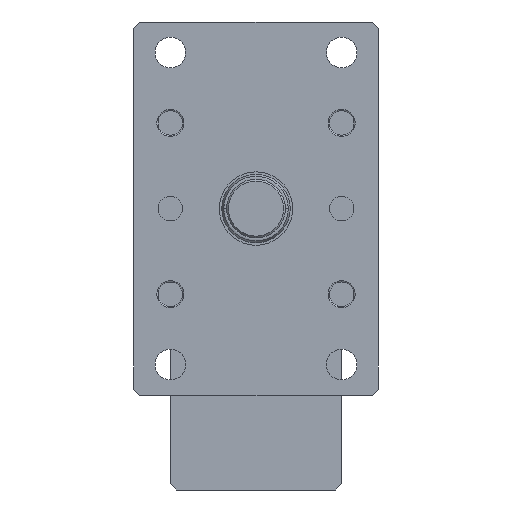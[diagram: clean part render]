
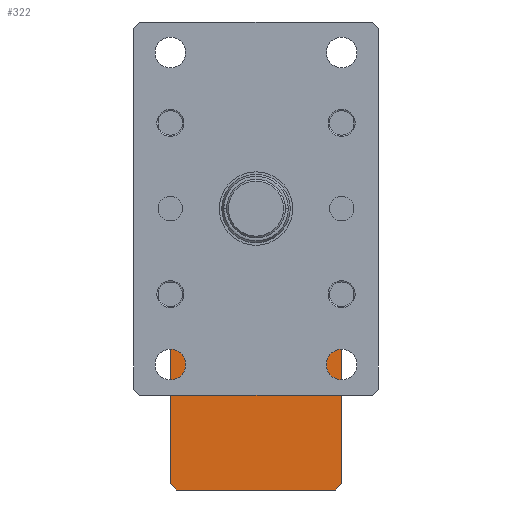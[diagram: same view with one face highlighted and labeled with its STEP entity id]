
A CAD part, left-side view. The second image highlights one B-rep face of the part: STEP entity #322.
In plain terms, the highlighted planar face has unit normal (-1, 0, 0).
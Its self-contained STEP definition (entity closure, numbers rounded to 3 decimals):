
#25 = ORIENTED_EDGE ( 'NONE', *, *, #1039, .F. ) ;
#322 = ADVANCED_FACE ( 'NONE', ( #6173 ), #689, .F. ) ;
#557 = LINE ( 'NONE', #2266, #2767 ) ;
#689 = PLANE ( 'NONE',  #6469 ) ;
#773 = VERTEX_POINT ( 'NONE', #7911 ) ;
#799 = VECTOR ( 'NONE', #8188, 1000. ) ;
#871 = VERTEX_POINT ( 'NONE', #1426 ) ;
#958 = VECTOR ( 'NONE', #3483, 1000. ) ;
#993 = CARTESIAN_POINT ( 'NONE',  ( 427.5, 70., -95. ) ) ;
#1039 = EDGE_CURVE ( 'NONE', #871, #5305, #557, .T. ) ;
#1426 = CARTESIAN_POINT ( 'NONE',  ( 427.5, 70., -225. ) ) ;
#1582 = VECTOR ( 'NONE', #3645, 1000. ) ;
#1812 = LINE ( 'NONE', #2941, #1582 ) ;
#1860 = CARTESIAN_POINT ( 'NONE',  ( 427.5, 70., -230. ) ) ;
#2060 = CARTESIAN_POINT ( 'NONE',  ( 427.5, 70., -230. ) ) ;
#2180 = CARTESIAN_POINT ( 'NONE',  ( 427.5, -70., -95. ) ) ;
#2266 = CARTESIAN_POINT ( 'NONE',  ( 427.5, 70., -230. ) ) ;
#2404 = VECTOR ( 'NONE', #6495, 1000. ) ;
#2410 = VECTOR ( 'NONE', #8034, 1000. ) ;
#2572 = LINE ( 'NONE', #7624, #958 ) ;
#2606 = ORIENTED_EDGE ( 'NONE', *, *, #3334, .T. ) ;
#2653 = CARTESIAN_POINT ( 'NONE',  ( 427.5, -70., -230. ) ) ;
#2767 = VECTOR ( 'NONE', #7110, 1000. ) ;
#2941 = CARTESIAN_POINT ( 'NONE',  ( 427.5, -65., -230. ) ) ;
#2952 = ORIENTED_EDGE ( 'NONE', *, *, #7662, .F. ) ;
#3173 = DIRECTION ( 'NONE',  ( 0., 0.707, 0.707 ) ) ;
#3193 = CARTESIAN_POINT ( 'NONE',  ( 427.5, 65., -90. ) ) ;
#3256 = VERTEX_POINT ( 'NONE', #4217 ) ;
#3314 = CARTESIAN_POINT ( 'NONE',  ( 427.5, 65., -230. ) ) ;
#3334 = EDGE_CURVE ( 'NONE', #3452, #5305, #8343, .T. ) ;
#3440 = DIRECTION ( 'NONE',  ( 0., 1., 0. ) ) ;
#3452 = VERTEX_POINT ( 'NONE', #3193 ) ;
#3483 = DIRECTION ( 'NONE',  ( 0., 1., 0. ) ) ;
#3645 = DIRECTION ( 'NONE',  ( 0., -0.707, 0.707 ) ) ;
#4107 = ORIENTED_EDGE ( 'NONE', *, *, #6761, .T. ) ;
#4142 = ORIENTED_EDGE ( 'NONE', *, *, #6583, .T. ) ;
#4200 = VERTEX_POINT ( 'NONE', #5298 ) ;
#4217 = CARTESIAN_POINT ( 'NONE',  ( 427.5, -65., -230. ) ) ;
#4232 = LINE ( 'NONE', #1860, #2410 ) ;
#4430 = ORIENTED_EDGE ( 'NONE', *, *, #5190, .T. ) ;
#4504 = VECTOR ( 'NONE', #3173, 1000. ) ;
#4692 = LINE ( 'NONE', #2653, #799 ) ;
#4847 = ORIENTED_EDGE ( 'NONE', *, *, #8904, .T. ) ;
#5121 = EDGE_LOOP ( 'NONE', ( #4847, #4142, #4430, #2606, #25, #8536, #2952, #4107 ) ) ;
#5190 = EDGE_CURVE ( 'NONE', #773, #3452, #2572, .T. ) ;
#5298 = CARTESIAN_POINT ( 'NONE',  ( 427.5, -70., -225. ) ) ;
#5305 = VERTEX_POINT ( 'NONE', #7707 ) ;
#5417 = CARTESIAN_POINT ( 'NONE',  ( 427.5, 65., -230. ) ) ;
#5627 = VECTOR ( 'NONE', #6109, 1000. ) ;
#6109 = DIRECTION ( 'NONE',  ( 0., -0.707, -0.707 ) ) ;
#6173 = FACE_OUTER_BOUND ( 'NONE', #5121, .T. ) ;
#6286 = LINE ( 'NONE', #5417, #5627 ) ;
#6327 = LINE ( 'NONE', #8672, #4504 ) ;
#6469 = AXIS2_PLACEMENT_3D ( 'NONE', #2060, #7573, #3440 ) ;
#6495 = DIRECTION ( 'NONE',  ( 0., 0.707, -0.707 ) ) ;
#6583 = EDGE_CURVE ( 'NONE', #8327, #773, #6327, .T. ) ;
#6761 = EDGE_CURVE ( 'NONE', #3256, #4200, #1812, .T. ) ;
#7064 = VERTEX_POINT ( 'NONE', #3314 ) ;
#7110 = DIRECTION ( 'NONE',  ( 0., 0., 1. ) ) ;
#7573 = DIRECTION ( 'NONE',  ( 1., 0., 0. ) ) ;
#7624 = CARTESIAN_POINT ( 'NONE',  ( 427.5, 70., -90. ) ) ;
#7662 = EDGE_CURVE ( 'NONE', #3256, #7064, #4232, .T. ) ;
#7707 = CARTESIAN_POINT ( 'NONE',  ( 427.5, 70., -95. ) ) ;
#7911 = CARTESIAN_POINT ( 'NONE',  ( 427.5, -65., -90. ) ) ;
#8034 = DIRECTION ( 'NONE',  ( 0., 1., 0. ) ) ;
#8137 = EDGE_CURVE ( 'NONE', #871, #7064, #6286, .T. ) ;
#8188 = DIRECTION ( 'NONE',  ( 0., 0., 1. ) ) ;
#8327 = VERTEX_POINT ( 'NONE', #2180 ) ;
#8343 = LINE ( 'NONE', #993, #2404 ) ;
#8536 = ORIENTED_EDGE ( 'NONE', *, *, #8137, .T. ) ;
#8672 = CARTESIAN_POINT ( 'NONE',  ( 427.5, -70., -95. ) ) ;
#8904 = EDGE_CURVE ( 'NONE', #4200, #8327, #4692, .T. ) ;
